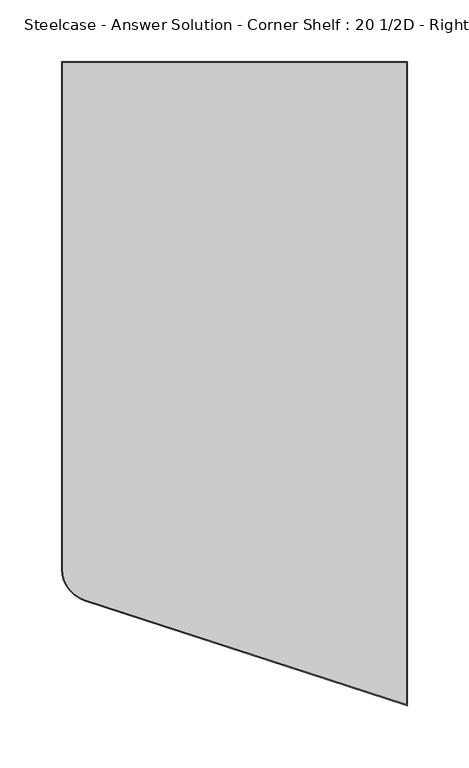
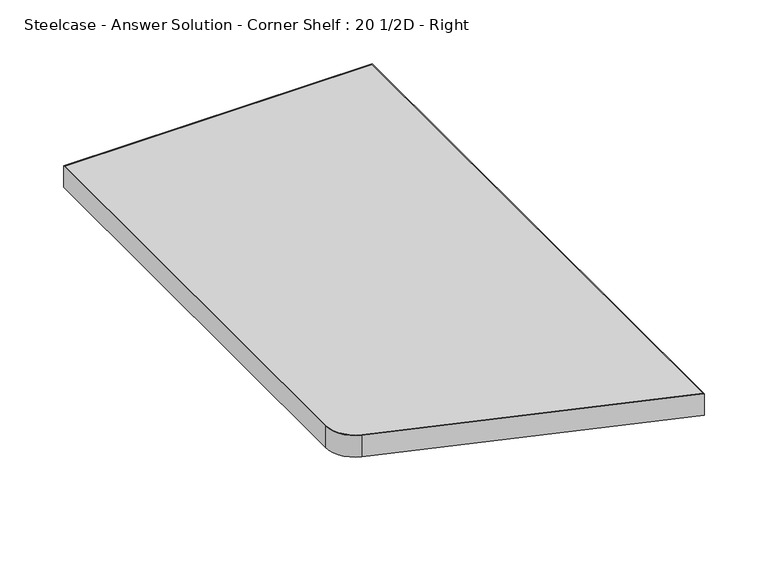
"""IFC4 building model written with IfcOpenShell, lengths in millimetres: furniture geometry, Steelcase - Answer Solution - Corner Shelf : 20 1/2D - Right."""

from ifc_helpers import new_model, si_unit, point, frame, frame_2d, origin, place, context, project, spatial, polyline, circle_curve, trimmed, segment, composite_curve, outline, extrude, source, transform, mapped, element, save


def steelcase_answer_solution_corner_shelf_20_1_2d_right_bcdcac13(model_context):
    return source(origin(), model_context, "Body", "SweptSolid", [
        extrude(outline(composite_curve([segment(polyline([(-113.538, 19.812), (164.338, 19.812), (164.338, -499.1130655), (-95.6345824, -414.4945056)]), True, "CONTINUOUS"), segment(trimmed(circle_curve(frame_2d((-87.63, -389.8540688)), 25.908), [point((-95.6345824, -414.4945056))], [point((-113.538, -389.8540688))], False, "CARTESIAN"), True, "CONTINUOUS"), segment(polyline([(-113.538, -389.8540688), (-113.538, 19.812)]), True, "CONTINUOUS")], self_intersect=False)), frame((0.0, 0.0, 723.9), z_axis=(0.0, 0.0, 1.0), x_axis=(1.0, 0.0, 0.0)), (0.0, 0.0, 1.0), 20.574),
        extrude(outline(composite_curve([segment(polyline([(-114.3436562, 20.6176563), (165.1436562, 20.6176563), (165.1436562, -500.2225581), (-95.8834994, -415.2607447)]), True, "CONTINUOUS"), segment(trimmed(circle_curve(frame_2d((-87.63, -389.8540688)), 26.7136563), [point((-95.8834994, -415.2607447))], [point((-114.3436562, -389.8540688))], False, "CARTESIAN"), True, "CONTINUOUS"), segment(polyline([(-114.3436562, -389.8540688), (-114.3436562, 20.6176563)]), True, "CONTINUOUS")], self_intersect=False), holes=[composite_curve([segment(polyline([(-95.6345824, -414.4945056), (164.338, -499.1130655), (164.338, 19.812), (-113.538, 19.812), (-113.538, -389.8540688)]), True, "CONTINUOUS"), segment(trimmed(circle_curve(frame_2d((-87.63, -389.8540688)), 25.908), [point((-113.538, -389.8540688))], [point((-95.6345824, -414.4945056))], True, "CARTESIAN"), True, "CONTINUOUS")], self_intersect=False)]), frame((0.0, 0.0, 723.9), z_axis=(0.0, 0.0, 1.0), x_axis=(1.0, 0.0, 0.0)), (0.0, 0.0, 1.0), 20.574),
    ])


if __name__ == "__main__":
    model = new_model("IFC4")
    model_context = context("Model", 3, world=origin())
    ifc_project = project(units=[si_unit("LENGTHUNIT", "METRE", prefix="MILLI")], contexts=[model_context])
    site = spatial("IfcSite", under=ifc_project)
    building = spatial("IfcBuilding", under=site)
    placement = place(None, origin())
    steelcase_answer_solution_corner_shelf_20_1_2d_right_shape = steelcase_answer_solution_corner_shelf_20_1_2d_right_bcdcac13(model_context)
    element("IfcFurniture", 1, ObjectType="Steelcase - Answer Solution - Corner Shelf : 20 1/2D - Right", at=placement, inside=building, context=model_context, shape_type="MappedRepresentation", body=[
        mapped(steelcase_answer_solution_corner_shelf_20_1_2d_right_shape, transform((0.0, 0.0, 0.0), x_axis=(1.0, 0.0, 0.0), y_axis=(0.0, 1.0, 0.0), z_axis=(0.0, 0.0, 1.0))),
    ])
    save(model, "model.ifc")
